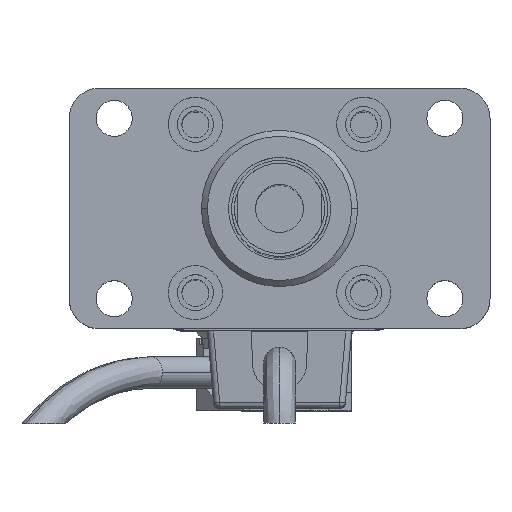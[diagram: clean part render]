
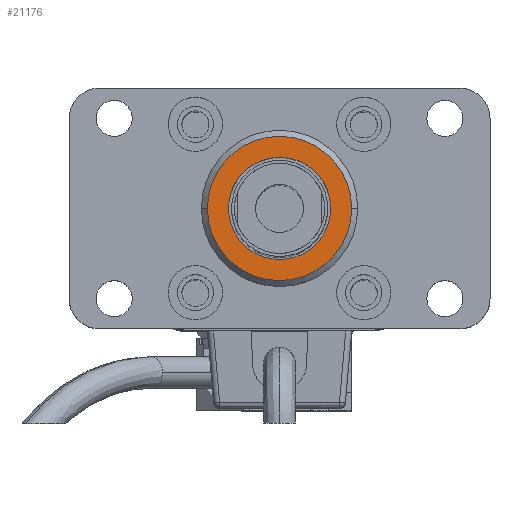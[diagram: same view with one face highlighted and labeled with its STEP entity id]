
A CAD part, top view. The second image highlights one B-rep face of the part: STEP entity #21176.
In plain terms, the highlighted planar face has unit normal (0, 0, 1) as drawn and (0, 0, -1) by its records, which use the part's own axes.
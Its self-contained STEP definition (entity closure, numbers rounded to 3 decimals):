
#495 = FACE_OUTER_BOUND ( 'NONE', #3665, .T. ) ;
#1942 = CIRCLE ( 'NONE', #9449, 8.5 ) ;
#2483 = ORIENTED_EDGE ( 'NONE', *, *, #20548, .F. ) ;
#2597 = CIRCLE ( 'NONE', #20564, 8.5 ) ;
#3665 = EDGE_LOOP ( 'NONE', ( #22072, #18998 ) ) ;
#5678 = CARTESIAN_POINT ( 'NONE',  ( 12., 0., -3. ) ) ;
#5897 = DIRECTION ( 'NONE',  ( -1., 0., 0. ) ) ;
#9065 = FACE_BOUND ( 'NONE', #22355, .T. ) ;
#9449 = AXIS2_PLACEMENT_3D ( 'NONE', #21553, #23766, #23483 ) ;
#9939 = AXIS2_PLACEMENT_3D ( 'NONE', #18972, #16705, #5897 ) ;
#11014 = DIRECTION ( 'NONE',  ( 0., 0., -1. ) ) ;
#12202 = CIRCLE ( 'NONE', #9939, 12. ) ;
#12555 = PLANE ( 'NONE',  #13701 ) ;
#12607 = VERTEX_POINT ( 'NONE', #25056 ) ;
#13099 = EDGE_CURVE ( 'NONE', #24406, #15256, #1942, .T. ) ;
#13701 = AXIS2_PLACEMENT_3D ( 'NONE', #27578, #27840, #27938 ) ;
#15256 = VERTEX_POINT ( 'NONE', #20091 ) ;
#16526 = AXIS2_PLACEMENT_3D ( 'NONE', #22236, #11014, #22137 ) ;
#16705 = DIRECTION ( 'NONE',  ( 0., 0., -1. ) ) ;
#16748 = VERTEX_POINT ( 'NONE', #5678 ) ;
#18752 = CIRCLE ( 'NONE', #16526, 12. ) ;
#18972 = CARTESIAN_POINT ( 'NONE',  ( 0., 0., -3. ) ) ;
#18998 = ORIENTED_EDGE ( 'NONE', *, *, #25035, .T. ) ;
#19678 = CARTESIAN_POINT ( 'NONE',  ( 0., 0., -3. ) ) ;
#20091 = CARTESIAN_POINT ( 'NONE',  ( -8.5, 0., -3. ) ) ;
#20391 = CARTESIAN_POINT ( 'NONE',  ( 8.5, 0., -3. ) ) ;
#20548 = EDGE_CURVE ( 'NONE', #15256, #24406, #2597, .T. ) ;
#20564 = AXIS2_PLACEMENT_3D ( 'NONE', #19678, #23922, #21701 ) ;
#21176 = ADVANCED_FACE ( 'NONE', ( #495, #9065 ), #12555, .T. ) ;
#21553 = CARTESIAN_POINT ( 'NONE',  ( 0., 0., -3. ) ) ;
#21701 = DIRECTION ( 'NONE',  ( -1., 0., 0. ) ) ;
#22072 = ORIENTED_EDGE ( 'NONE', *, *, #26737, .T. ) ;
#22137 = DIRECTION ( 'NONE',  ( -1., 0., 0. ) ) ;
#22236 = CARTESIAN_POINT ( 'NONE',  ( 0., 0., -3. ) ) ;
#22355 = EDGE_LOOP ( 'NONE', ( #27320, #2483 ) ) ;
#23483 = DIRECTION ( 'NONE',  ( -1., 0., 0. ) ) ;
#23766 = DIRECTION ( 'NONE',  ( 0., 0., -1. ) ) ;
#23922 = DIRECTION ( 'NONE',  ( 0., 0., -1. ) ) ;
#24406 = VERTEX_POINT ( 'NONE', #20391 ) ;
#25035 = EDGE_CURVE ( 'NONE', #12607, #16748, #18752, .T. ) ;
#25056 = CARTESIAN_POINT ( 'NONE',  ( -12., 0., -3. ) ) ;
#26737 = EDGE_CURVE ( 'NONE', #16748, #12607, #12202, .T. ) ;
#27320 = ORIENTED_EDGE ( 'NONE', *, *, #13099, .F. ) ;
#27578 = CARTESIAN_POINT ( 'NONE',  ( 0., 0., -3. ) ) ;
#27840 = DIRECTION ( 'NONE',  ( 0., 0., -1. ) ) ;
#27938 = DIRECTION ( 'NONE',  ( -1., 0., 0. ) ) ;
